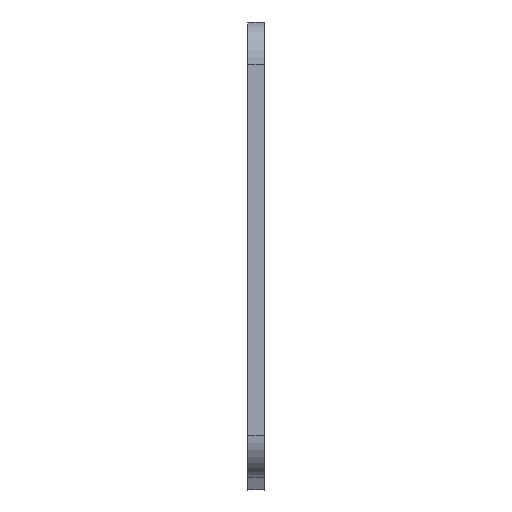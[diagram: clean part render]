
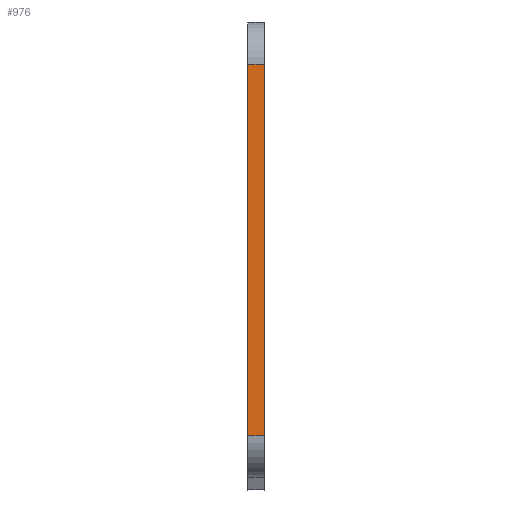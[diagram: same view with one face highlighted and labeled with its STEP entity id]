
A CAD part, front view. The second image highlights one B-rep face of the part: STEP entity #976.
In plain terms, the highlighted planar face has unit normal (0, -1, 0).
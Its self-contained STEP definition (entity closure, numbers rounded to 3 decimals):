
#41=PLANE('',#1075);
#61=FACE_OUTER_BOUND('',#121,.T.);
#121=EDGE_LOOP('',(#671,#672,#673,#674));
#180=LINE('',#1453,#261);
#189=LINE('',#1487,#270);
#198=LINE('',#1540,#279);
#199=LINE('',#1541,#280);
#261=VECTOR('',#1160,10.);
#270=VECTOR('',#1187,10.);
#279=VECTOR('',#1232,10.);
#280=VECTOR('',#1233,10.);
#398=VERTEX_POINT('',#1447);
#400=VERTEX_POINT('',#1451);
#416=VERTEX_POINT('',#1485);
#442=VERTEX_POINT('',#1539);
#490=EDGE_CURVE('',#398,#400,#180,.T.);
#507=EDGE_CURVE('',#400,#416,#189,.T.);
#533=EDGE_CURVE('',#416,#442,#198,.T.);
#534=EDGE_CURVE('',#398,#442,#199,.T.);
#671=ORIENTED_EDGE('',*,*,#490,.T.);
#672=ORIENTED_EDGE('',*,*,#507,.T.);
#673=ORIENTED_EDGE('',*,*,#533,.T.);
#674=ORIENTED_EDGE('',*,*,#534,.F.);
#976=ADVANCED_FACE('',(#61),#41,.F.);
#1075=AXIS2_PLACEMENT_3D('',#1538,#1230,#1231);
#1160=DIRECTION('',(1.,0.,0.));
#1187=DIRECTION('',(0.,0.,1.));
#1230=DIRECTION('center_axis',(0.,1.,0.));
#1231=DIRECTION('ref_axis',(0.,0.,1.));
#1232=DIRECTION('',(-1.,0.,0.));
#1233=DIRECTION('',(0.,0.,1.));
#1447=CARTESIAN_POINT('',(0.,-50.,-48.3));
#1451=CARTESIAN_POINT('',(4.,-50.,-48.3));
#1453=CARTESIAN_POINT('',(2.,-50.,-48.3));
#1485=CARTESIAN_POINT('',(4.,-50.,40.));
#1487=CARTESIAN_POINT('',(4.,-50.,-61.3));
#1538=CARTESIAN_POINT('Origin',(0.,-50.,-61.3));
#1539=CARTESIAN_POINT('',(0.,-50.,40.));
#1540=CARTESIAN_POINT('',(0.,-50.,40.));
#1541=CARTESIAN_POINT('',(0.,-50.,-61.3));
